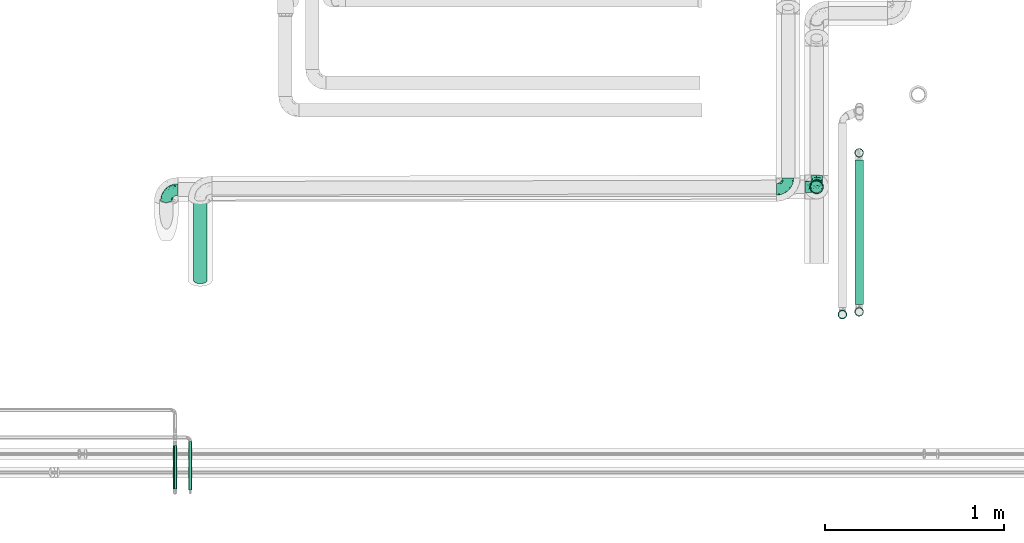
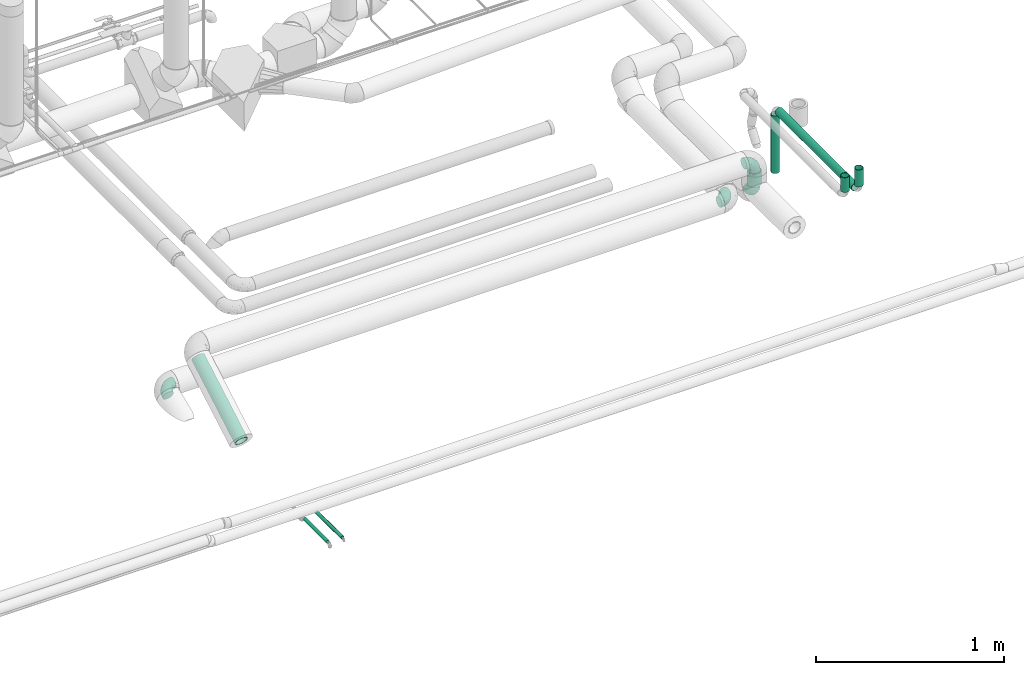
# One storey, part 57 of 156: 8 flow segments, 4 flow fittings.
"""IFC2X3 building model written with IfcOpenShell, lengths in millimetres."""

from ifc_helpers import new_model, entity, si_unit, converted_unit, derived_unit, direction, frame, origin_with_axes, origin_2d_with_axis, place, context, subcontext, project, spatial, hollow_circle, extrude, open_shell, surface_model, source, transform, mapped, type_object, element, save


model = new_model("IFC2X3")

# Units and contexts
model_context = context("Model", 3, precision=0.01, world=frame((0.0, 4.29681676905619e-09, 0.0)), true_north=direction((4.01073788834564e-13, 1.0)))
plan_context = context("Plan", 3, precision=0.01, world=frame((0.0, 4.29681676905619e-09, 0.0)), true_north=direction((4.01073788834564e-13, 1.0)))
body_context = subcontext(model_context, "Body", "Model", "MODEL_VIEW")
ifc_project = project(units=[converted_unit("PLANEANGLEUNIT", "DEGREE", entity("IfcPositiveLengthMeasure", 0.0174532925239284), si_unit("PLANEANGLEUNIT", "RADIAN"), dimensions=[0, 0, 0, 0, 0, 0, 0]), si_unit("AREAUNIT", "SQUARE_METRE"), si_unit("LENGTHUNIT", "METRE", prefix="MILLI"), si_unit("MASSUNIT", "GRAM", prefix="KILO"), si_unit("POWERUNIT", "WATT"), si_unit("PRESSUREUNIT", "PASCAL", prefix="KILO"), si_unit("FORCEUNIT", "NEWTON", prefix="KILO"), si_unit("ELECTRICVOLTAGEUNIT", "VOLT"), si_unit("ELECTRICCURRENTUNIT", "AMPERE"), si_unit("THERMODYNAMICTEMPERATUREUNIT", "DEGREE_CELSIUS"), si_unit("TIMEUNIT", "SECOND"), si_unit("VOLUMEUNIT", "CUBIC_METRE"), derived_unit("LINEARVELOCITYUNIT", [(si_unit("LENGTHUNIT", "METRE"), 1), (si_unit("TIMEUNIT", "SECOND"), -1)]), derived_unit("VOLUMETRICFLOWRATEUNIT", [(si_unit("VOLUMEUNIT", "CUBIC_METRE"), 1), (si_unit("TIMEUNIT", "SECOND"), -1)]), derived_unit("THERMALTRANSMITTANCEUNIT", [(si_unit("POWERUNIT", "WATT"), 1), (si_unit("THERMODYNAMICTEMPERATUREUNIT", "KELVIN"), -1), (si_unit("AREAUNIT", "SQUARE_METRE"), -1)]), derived_unit("SOUNDPRESSUREUNIT", [(si_unit("PRESSUREUNIT", "PASCAL"), 1)])], contexts=[model_context, plan_context])

# Site, building, storey
site_placement = place(None, frame((0.0, -4.29681676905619e-09, 0.0), z_axis=(0.0, 0.0, 1.0), x_axis=(1.0, 0.0, 0.0)))
site = spatial("IfcSite", under=ifc_project, at=site_placement, CompositionType="ELEMENT")
building_placement = place(site_placement, frame((0.0, 4.29681676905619e-09, 0.0), z_axis=(0.0, 0.0, 1.0), x_axis=(1.0, 0.0, 0.0)))
building = spatial("IfcBuilding", under=site, at=building_placement, Name="mc-building", CompositionType="ELEMENT")
storey_placement = place(building_placement, frame((0.0, 0.0, 205200.0), z_axis=(0.0, 0.0, 1.0), x_axis=(1.0, 0.0, 0.0)))
storey = spatial("IfcBuildingStorey", under=building, at=storey_placement, Name="Nivå D + 1,2 m", CompositionType="ELEMENT", Elevation=205200.0)

# Flow fittings
pipe_fitting_type = type_object("IfcPipeFittingType", Name="magi_pipe_elbow_short_001", PredefinedType="BEND")
shared_shape_1 = source(origin_with_axes(), body_context, "Body", "SurfaceModel", [
    surface_model("IfcShellBasedSurfaceModel", [(-65.0, 16.25, -28.14582), (-65.0, 8.41162, -31.39259), (-65.0, 0.0, -32.5), (-65.0, 22.98097, -22.98097), (-65.0, 31.39259, -8.41162), (-65.0, 28.14582, -16.25), (-65.0, -22.98097, -22.98097), (-65.0, -32.5, 0.0), (-65.0, -16.25, -28.14582), (-65.0, -8.41162, -31.39259), (-65.0, -31.39259, -8.41162), (-65.0, -28.14582, -16.25), (-65.0, 28.14582, 16.25), (-65.0, 31.39259, 8.41162), (-65.0, 16.25, 28.14582), (-65.0, -16.25, 28.14582), (-65.0, 22.98097, 22.98097), (-65.0, 8.41162, 31.39259), (-65.0, 0.0, 32.5), (-65.0, -28.14582, 16.25), (-65.0, -22.98097, 22.98097), (-65.0, -31.39259, 8.41162), (-65.0, -8.41162, 31.39259), (-65.0, 32.5, 0.0), (0.0, 65.0, -32.5), (-8.41162, 65.0, -31.39259), (-16.25, 65.0, -28.14582), (-22.98097, 65.0, -22.98097), (-28.14582, 65.0, -16.25), (-31.39259, 65.0, -8.41162), (22.98097, 65.0, -22.98097), (32.5, 65.0, 0.0), (8.41162, 65.0, -31.39259), (16.25, 65.0, -28.14582), (28.14582, 65.0, -16.25), (31.39259, 65.0, -8.41162), (22.98097, 65.0, 22.98097), (-31.39259, 65.0, 8.41162), (-16.25, 65.0, 28.14582), (-28.14582, 65.0, 16.25), (16.25, 65.0, 28.14582), (-22.98097, 65.0, 22.98097), (0.0, 65.0, 32.5), (-8.41162, 65.0, 31.39259), (31.39259, 65.0, 8.41162), (28.14582, 65.0, 16.25), (8.41162, 65.0, 31.39259), (-32.5, 65.0, 0.0), (-43.90702, -28.50357, 10.21429), (-47.66599, -25.24708, 18.24329), (-34.87084, -27.72801, 0.0), (-49.01599, -29.96838, 0.0), (-8.32282, -11.22418, 12.53244), (-2.26208, -8.68175, 6.83487), (1.87734, -1.87734, 13.46633), (-49.6496, -4.30536, 31.94417), (-45.51055, 4.98181, 32.4446), (11.10232, 7.93663, 12.20831), (19.84605, 26.44675, 16.1655), (7.61141, 11.79181, 20.74294), (-32.35679, -0.29166, 31.50073), (-47.54175, -12.2622, 29.22881), (-25.24141, -7.67713, 27.1649), (-41.69066, -18.5666, 24.14336), (-29.11978, -24.90981, 6.68628), (-21.28089, -20.80358, 0.0), (-11.79181, -7.61142, 20.74294), (-5.80543, 5.80543, 26.57151), (-31.76895, 51.87177, 14.12563), (-27.14947, 50.59881, 21.35142), (-12.13166, 56.06035, 30.44206), (-4.45426, 48.61541, 32.42017), (-50.09899, 12.74635, 30.7009), (-8.48341, 21.76765, 31.91167), (-16.14859, 5.96219, 30.34845), (-3.32017, 17.55886, 29.86711), (-56.22928, 19.68144, 26.48178), (-11.29526, 31.96047, 32.44169), (-24.07322, 24.07322, 31.71032), (-19.35215, 14.20223, 32.33259), (-51.38141, 34.61729, 7.14563), (-51.88792, 31.7637, 14.12347), (-40.35305, 40.35305, 12.14877), (-50.80511, 27.09273, 21.32871), (18.5666, 41.69066, 24.14336), (-33.7058, 43.08158, 18.39466), (12.2622, 47.54175, 29.22881), (25.24708, 47.66599, 18.24329), (28.50357, 43.90702, 10.21429), (-7.69094, -13.87916, 0.0), (-15.78148, -17.87706, 8.42054), (4.30536, 49.6496, 31.94417), (-35.71343, 13.92127, 31.91839), (-31.89105, 7.96389, 32.48613), (20.80358, 21.28089, 0.0), (24.90981, 29.11978, 6.68628), (17.87706, 15.78148, 8.42054), (29.96838, 49.01599, 0.0), (-34.55128, 22.0521, 30.06059), (-26.44675, -19.84605, 16.1655), (-23.56236, 42.00642, 27.31532), (-19.85518, 54.49722, 26.61661), (-34.21038, 52.42992, 6.97228), (-40.73172, 42.62744, 5.71978), (14.97296, 26.18012, 22.02699), (7.67713, 25.24141, 27.1649), (-36.85418, 48.75, 0.0), (-30.08671, 34.32049, 26.70528), (-44.75398, 22.06156, 27.36835), (-0.49673, 0.49673, 19.20125), (-18.54586, 33.64303, 31.24245), (-25.89232, 31.46486, 29.57131), (-14.05565, 44.0383, 30.95171), (-34.25835, 36.29564, 23.02122), (-41.74137, 34.9217, 18.12276), (0.29166, 32.35679, 31.50073), (-26.05885, -14.24556, 22.66105), (8.86268, 2.36037, 6.4802), (27.72801, 34.87084, 0.0), (13.87916, 7.69094, 0.0), (-48.75, 36.85418, 0.0), (3.09411, -3.09411, 0.0), (-47.92601, 27.98949, -21.64777), (-51.85818, 31.77338, -14.12745), (-26.55091, -8.20204, -27.26679), (-28.22117, -0.4054, -30.91131), (-13.05808, -0.54385, -26.63038), (-51.44999, 4.10942, -32.39422), (-47.41254, -29.09488, -10.59528), (-40.83541, -24.10132, -17.60314), (-31.01128, -24.37143, -10.90365), (-47.28426, 13.26677, -30.81881), (-35.80381, 7.68292, -32.49298), (-27.98949, 47.926, -21.64777), (-52.61518, 34.1021, -7.1115), (-20.39883, 51.02225, -26.88546), (-13.26677, 47.28425, -30.81881), (-41.3544, 41.3544, -7.75963), (19.41673, 47.01902, -24.53799), (11.21609, 41.15804, -28.90474), (12.81249, 54.88919, -29.57871), (-6.33191, -11.43232, -8.55907), (-6.42402, -8.42757, -14.80991), (3.49643, -2.75853, -8.57549), (-18.96438, 17.57366, -32.48155), (-30.80999, 19.23044, -31.53267), (-51.02225, 20.39883, -26.88546), (-54.71682, -25.87182, -18.8826), (-31.61812, 36.9194, -24.4791), (-30.03666, 30.03666, -28.53614), (-39.72338, 27.45383, -25.81957), (2.83418, -0.59734, -13.92945), (-47.01902, -19.41673, -24.53799), (24.10132, 40.83541, -17.60314), (29.09488, 47.41254, -10.59528), (24.37143, 31.01128, -10.90365), (-54.88919, -12.81249, -29.57871), (4.09785, 47.8829, -31.90577), (-20.54613, -15.81902, -17.72957), (-24.2662, -13.25756, -22.73526), (-11.78149, -8.03072, -20.32007), (-35.46896, -14.83968, -25.51841), (-41.15804, -11.21609, -28.90474), (-47.8829, -4.09785, -31.90577), (-24.35359, 39.98269, -27.53072), (-34.1021, 52.61518, -7.1115), (-4.10942, 51.44999, -32.39422), (-11.47328, 11.47328, -30.68873), (0.4054, 28.22117, -30.91131), (1.36819, 15.2666, -27.10351), (-31.77338, 51.85818, -14.12745), (-39.0335, 39.0335, -16.01919), (25.87182, 54.71682, -18.8826), (18.8348, 26.11149, -17.45424), (10.47668, 12.32102, -18.0266), (13.25756, 24.2662, -22.73526), (6.71713, 27.74562, -28.39194), (-7.68292, 35.80381, -32.49298), (-39.5129, 20.9158, -29.29247), (-19.37897, 31.62685, -31.37546), (-0.30809, 0.30809, -18.83153), (-15.05383, -18.17086, -5.59074), (16.66507, 16.14703, -12.10401), (18.17086, 15.05383, -5.59074), (3.82878, 9.90613, -22.79737), (-16.14703, -16.66507, -12.10401)], [open_shell([[[0, 1, 2]], [[3, 0, 2]], [[4, 5, 3]], [[6, 3, 2]], [[4, 3, 7]], [[8, 6, 9]], [[6, 2, 9]], [[10, 7, 11]], [[6, 11, 7]], [[6, 7, 3]], [[7, 12, 4]], [[4, 12, 13]], [[14, 12, 7]], [[15, 14, 7]], [[16, 12, 14]], [[17, 14, 18]], [[19, 20, 21]], [[21, 20, 7]], [[22, 18, 15]], [[15, 7, 20]], [[14, 15, 18]], [[4, 13, 23]], [[24, 25, 26]], [[24, 26, 27]], [[27, 28, 29]], [[24, 27, 30]], [[31, 27, 29]], [[32, 30, 33]], [[32, 24, 30]], [[34, 31, 35]], [[31, 34, 30]], [[27, 31, 30]], [[29, 36, 31]], [[36, 29, 37]], [[38, 37, 39]], [[40, 37, 38]], [[38, 39, 41]], [[42, 38, 43]], [[44, 36, 45]], [[31, 36, 44]], [[40, 42, 46]], [[40, 36, 37]], [[42, 40, 38]], [[29, 47, 37]], [[48, 49, 19]], [[50, 48, 51]], [[52, 53, 54]], [[21, 48, 19]], [[21, 51, 48]], [[18, 55, 56]], [[19, 49, 20]], [[57, 58, 59]], [[60, 61, 62]], [[63, 15, 20]], [[63, 61, 15]], [[64, 50, 65]], [[62, 66, 67]], [[39, 68, 69]], [[43, 70, 71]], [[17, 72, 14]], [[73, 74, 75]], [[14, 76, 16]], [[22, 55, 18]], [[77, 78, 79]], [[80, 81, 82]], [[12, 83, 81]], [[84, 36, 40]], [[23, 13, 80]], [[13, 12, 81]], [[68, 85, 69]], [[83, 12, 16]], [[18, 56, 17]], [[40, 86, 84]], [[16, 76, 83]], [[87, 58, 88]], [[39, 37, 68]], [[89, 90, 65]], [[42, 91, 46]], [[65, 90, 64]], [[42, 43, 71]], [[92, 93, 79]], [[88, 44, 45]], [[45, 36, 87]], [[87, 88, 45]], [[94, 95, 96]], [[88, 97, 44]], [[98, 72, 92]], [[49, 99, 63]], [[69, 100, 101]], [[82, 102, 103]], [[104, 105, 59]], [[106, 102, 47]], [[98, 107, 108]], [[102, 82, 68]], [[86, 40, 46]], [[69, 41, 39]], [[109, 54, 57]], [[110, 100, 111]], [[15, 61, 22]], [[101, 38, 41]], [[70, 43, 38]], [[112, 77, 71]], [[84, 86, 105]], [[96, 95, 58]], [[100, 69, 113]], [[72, 17, 56]], [[108, 113, 83]], [[81, 114, 82]], [[112, 110, 77]], [[91, 71, 115]], [[62, 61, 63]], [[55, 61, 60]], [[116, 99, 66]], [[74, 62, 67]], [[91, 86, 46]], [[105, 86, 115]], [[75, 105, 115]], [[109, 67, 66]], [[59, 105, 67]], [[48, 64, 99]], [[99, 49, 48]], [[63, 20, 49]], [[36, 84, 87]], [[58, 87, 84]], [[92, 72, 56]], [[76, 72, 108]], [[102, 68, 37]], [[82, 114, 85]], [[98, 111, 107]], [[112, 70, 101]], [[114, 83, 113]], [[82, 103, 80]], [[92, 79, 78]], [[115, 71, 77]], [[74, 79, 60]], [[77, 79, 73]], [[71, 91, 42]], [[86, 91, 115]], [[61, 55, 22]], [[56, 55, 60]], [[57, 54, 117]], [[104, 59, 58]], [[116, 66, 62]], [[52, 99, 90]], [[21, 7, 51]], [[97, 88, 118]], [[97, 31, 44]], [[53, 90, 89]], [[90, 53, 52]], [[94, 96, 119]], [[88, 95, 118]], [[117, 54, 53]], [[92, 56, 93]], [[98, 92, 78]], [[111, 98, 78]], [[72, 98, 108]], [[110, 111, 78]], [[107, 111, 100]], [[47, 102, 37]], [[102, 106, 103]], [[106, 120, 103]], [[103, 120, 80]], [[23, 80, 120]], [[13, 81, 80]], [[56, 60, 93]], [[60, 79, 93]], [[117, 121, 119]], [[121, 117, 53]], [[53, 89, 121]], [[119, 96, 117]], [[117, 96, 57]], [[77, 110, 78]], [[100, 110, 112]], [[83, 114, 81]], [[85, 114, 113]], [[69, 85, 113]], [[82, 85, 68]], [[109, 52, 54]], [[99, 52, 66]], [[69, 101, 41]], [[112, 101, 100]], [[100, 113, 107]], [[108, 107, 113]], [[62, 74, 60]], [[75, 74, 67]], [[105, 75, 67]], [[73, 75, 115]], [[77, 73, 115]], [[74, 73, 79]], [[99, 64, 90]], [[50, 64, 48]], [[118, 95, 94]], [[58, 95, 88]], [[58, 57, 96]], [[109, 57, 59]], [[72, 76, 14]], [[83, 76, 108]], [[101, 70, 38]], [[71, 70, 112]], [[58, 84, 104]], [[105, 104, 84]], [[67, 109, 59]], [[52, 109, 66]], [[62, 63, 116]], [[99, 116, 63]], [[122, 5, 123]], [[124, 125, 126]], [[2, 1, 127]], [[128, 129, 130]], [[127, 131, 132]], [[28, 27, 133]], [[120, 134, 23]], [[135, 26, 136]], [[123, 134, 137]], [[138, 139, 140]], [[122, 3, 5]], [[141, 142, 143]], [[144, 132, 145]], [[131, 0, 146]], [[128, 11, 147]], [[148, 149, 150]], [[128, 51, 10]], [[142, 151, 143]], [[152, 6, 8]], [[153, 154, 155]], [[156, 152, 8]], [[32, 157, 24]], [[158, 159, 160]], [[147, 11, 6]], [[129, 152, 161]], [[156, 8, 9]], [[162, 163, 125]], [[154, 34, 35]], [[120, 106, 137]], [[149, 148, 164]], [[47, 29, 165]], [[163, 9, 2]], [[5, 4, 123]], [[25, 166, 136]], [[167, 168, 169]], [[170, 133, 171]], [[25, 24, 166]], [[33, 30, 138]], [[157, 32, 140]], [[29, 28, 170]], [[30, 34, 172]], [[26, 135, 27]], [[132, 131, 145]], [[32, 33, 140]], [[173, 174, 175]], [[169, 168, 176]], [[25, 136, 26]], [[175, 138, 173]], [[168, 177, 157]], [[163, 162, 156]], [[153, 172, 154]], [[11, 128, 10]], [[154, 97, 118]], [[131, 178, 145]], [[0, 3, 146]], [[175, 139, 138]], [[155, 118, 94]], [[131, 1, 0]], [[146, 178, 131]], [[170, 137, 165]], [[149, 179, 145]], [[171, 133, 148]], [[160, 180, 142]], [[65, 181, 89]], [[170, 165, 29]], [[137, 171, 123]], [[172, 138, 30]], [[138, 153, 173]], [[168, 157, 139]], [[166, 157, 177]], [[176, 175, 169]], [[168, 167, 144]], [[154, 35, 97]], [[155, 182, 173]], [[162, 124, 161]], [[147, 152, 129]], [[127, 163, 2]], [[132, 144, 125]], [[132, 125, 163]], [[125, 167, 126]], [[129, 158, 130]], [[35, 31, 97]], [[143, 182, 183]], [[169, 126, 167]], [[3, 122, 146]], [[178, 150, 149]], [[136, 179, 164]], [[133, 27, 135]], [[123, 4, 134]], [[122, 123, 171]], [[133, 170, 28]], [[137, 170, 171]], [[184, 175, 174]], [[180, 160, 126]], [[126, 169, 184]], [[126, 159, 124]], [[51, 128, 50]], [[51, 7, 10]], [[131, 127, 1]], [[163, 127, 132]], [[157, 166, 24]], [[136, 166, 177]], [[164, 179, 149]], [[144, 167, 125]], [[179, 144, 145]], [[168, 144, 177]], [[136, 177, 179]], [[144, 179, 177]], [[141, 121, 89]], [[89, 181, 141]], [[154, 118, 155]], [[183, 155, 94]], [[143, 183, 119]], [[119, 183, 94]], [[155, 183, 182]], [[181, 130, 185]], [[50, 128, 130]], [[130, 181, 65]], [[50, 130, 65]], [[141, 181, 185]], [[142, 141, 185]], [[143, 121, 141]], [[158, 160, 142]], [[142, 180, 151]], [[158, 142, 185]], [[126, 160, 159]], [[130, 158, 185]], [[129, 159, 158]], [[23, 134, 4]], [[120, 137, 134]], [[137, 106, 165]], [[47, 165, 106]], [[174, 151, 180]], [[182, 143, 151]], [[150, 146, 122]], [[149, 145, 178]], [[146, 150, 178]], [[122, 171, 148]], [[148, 150, 122]], [[164, 133, 135]], [[133, 164, 148]], [[164, 135, 136]], [[138, 140, 33]], [[157, 140, 139]], [[154, 172, 34]], [[138, 172, 153]], [[163, 156, 9]], [[152, 156, 162]], [[152, 147, 6]], [[128, 147, 129]], [[155, 173, 153]], [[174, 173, 182]], [[151, 174, 182]], [[174, 180, 184]], [[126, 184, 180]], [[175, 184, 169]], [[168, 139, 176]], [[175, 176, 139]], [[161, 124, 159]], [[125, 124, 162]], [[129, 161, 159]], [[162, 161, 152]], [[143, 119, 121]]])]),
])
for number, where, z_axis, x_axis, name in (
    (1, (326217.42979, 460512.28647, 4048.81464), (0.0, -0.37460689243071, 0.927183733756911), (-1.0, 0.0, 0.0), "magi_pipe_elbow_short_001"),
    (2, (329697.42979, 460512.28647, 4048.81464), (0.0, -0.00259999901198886, 0.999996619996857), (1.0, 0.0, 0.0), "magi_pipe_elbow_short_001"),
    (3, (329857.42979, 460526.64514, 4015.75618999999), (-1.0, 0.0, 0.0), (0.0, -1.0, 0.0), "magi_pipe_elbow_short_001"),
    (4, (329857.42979, 460526.64514, 4232.60000000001), (0.00219499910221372, -0.999997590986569, 0.0), (0.0, 0.0, 1.0), "magi_pipe_elbow_short_001"),
):
    element("IfcFlowFitting", number, at=place(storey_placement, frame(where, z_axis=z_axis, x_axis=x_axis)), inside=storey, type_object=pipe_fitting_type, Name=name, context=body_context, shape_type="MappedRepresentation", body=[
        mapped(shared_shape_1, transform((0.0, 0.0, 0.0), scale=1.0)),
    ])

# Flow segments
pipe_segment_type = type_object("IfcPipeSegmentType", Name="Stålrør normaltykke", PredefinedType="RIGIDSEGMENT")
shared_shape_2 = source(origin_with_axes(), body_context, "Body", "SweptSolid", [
    extrude(hollow_circle(Radius=10.7, WallThickness=2.0, at=origin_2d_with_axis()), frame((0.0, 0.0, 0.0), z_axis=(1.0, 0.0, 0.0), x_axis=(0.0, 1.0, 0.0)), (0.0, 0.0, 1.0), 271.8),
])
flow_segment_1_placement = place(storey_placement, frame((326351.10559, 459101.67897, 4038.13884), z_axis=(0.0, 0.00648799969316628, 0.999978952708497), x_axis=(0.0, -0.999978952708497, 0.00648799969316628)))
element("IfcFlowSegment", 5, at=flow_segment_1_placement, inside=storey, type_object=pipe_segment_type, Name="Stålrør normaltykke", context=body_context, shape_type="MappedRepresentation", body=[
    mapped(shared_shape_2, transform((0.0, 0.0, 0.0), scale=1.0)),
])
shared_shape_3 = source(origin_with_axes(), body_context, "Body", "SweptSolid", [
    extrude(hollow_circle(Radius=10.7, WallThickness=2.0, at=origin_2d_with_axis()), frame((0.0, 0.0, 0.0), z_axis=(1.0, 0.0, 0.0), x_axis=(0.0, 1.0, 0.0)), (0.0, 0.0, 1.0), 243.5),
])
flow_segment_2_placement = place(storey_placement, frame((326265.45854, 458836.22144, 4038.0), z_axis=(0.0, 0.0, 1.0), x_axis=(0.0, 1.0, 0.0)))
element("IfcFlowSegment", 6, at=flow_segment_2_placement, inside=storey, type_object=pipe_segment_type, Name="Stålrør normaltykke", context=body_context, shape_type="MappedRepresentation", body=[
    mapped(shared_shape_3, transform((0.0, 0.0, 0.0), scale=1.0)),
])
shared_shape_4 = source(origin_with_axes(), body_context, "Body", "SweptSolid", [
    extrude(hollow_circle(Radius=24.1, WallThickness=2.0, at=origin_2d_with_axis()), frame((0.0, 0.0, 0.0), z_axis=(1.0, 0.0, 0.0), x_axis=(0.0, 1.0, 0.0)), (0.0, 0.0, 1.0), 372.9),
])
flow_segment_3_placement = place(storey_placement, frame((330095.2081, 460717.29788, 3961.57445000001), z_axis=(0.0, 1.0, 0.0), x_axis=(0.0, 0.0, 1.0)))
element("IfcFlowSegment", 7, at=flow_segment_3_placement, inside=storey, type_object=pipe_segment_type, Name="Stålrør normaltykke", context=body_context, shape_type="MappedRepresentation", body=[
    mapped(shared_shape_4, transform((0.0, 0.0, 0.0), scale=1.0)),
])
shared_shape_5 = source(origin_with_axes(), body_context, "Body", "SweptSolid", [
    extrude(hollow_circle(Radius=24.1, WallThickness=2.0, at=origin_2d_with_axis()), frame((0.0, 0.0, 0.0), z_axis=(1.0, 0.0, 0.0), x_axis=(0.0, 1.0, 0.0)), (0.0, 0.0, 1.0), 810.0),
])
flow_segment_4_placement = place(storey_placement, frame((330095.2081, 460677.29788, 4374.42444999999), z_axis=(0.0, 0.0, 1.0), x_axis=(0.0, -1.0, 0.0)))
element("IfcFlowSegment", 8, at=flow_segment_4_placement, inside=storey, type_object=pipe_segment_type, Name="Stålrør normaltykke", context=body_context, shape_type="MappedRepresentation", body=[
    mapped(shared_shape_5, transform((0.0, 0.0, 0.0), scale=1.0)),
])
shared_shape_6 = source(origin_with_axes(), body_context, "Body", "SweptSolid", [
    extrude(hollow_circle(Radius=24.1, WallThickness=2.0, at=origin_2d_with_axis()), frame((0.0, 0.0, 0.0), z_axis=(1.0, 0.0, 0.0), x_axis=(0.0, 1.0, 0.0)), (0.0, 0.0, 1.0), 110.2),
])
flow_segment_5_placement = place(storey_placement, frame((330095.2081, 459827.29788, 4414.42444999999), z_axis=(0.0, 1.0, 0.0), x_axis=(0.0, 0.0, 1.0)))
element("IfcFlowSegment", 9, at=flow_segment_5_placement, inside=storey, type_object=pipe_segment_type, Name="Stålrør normaltykke", context=body_context, shape_type="MappedRepresentation", body=[
    mapped(shared_shape_6, transform((0.0, 0.0, 0.0), scale=1.0)),
])
shared_shape_7 = source(origin_with_axes(), body_context, "Body", "SweptSolid", [
    extrude(hollow_circle(Radius=24.1, WallThickness=2.0, at=origin_2d_with_axis()), frame((0.0, 0.0, 0.0), z_axis=(1.0, 0.0, 0.0), x_axis=(0.0, 1.0, 0.0)), (0.0, 0.0, 1.0), 95.2),
])
flow_segment_6_placement = place(storey_placement, frame((330001.54908, 459812.46901, 4421.09904), z_axis=(0.0, -1.0, 0.0), x_axis=(0.0, 0.0, 1.0)))
element("IfcFlowSegment", 10, at=flow_segment_6_placement, inside=storey, type_object=pipe_segment_type, Name="Stålrør normaltykke", context=body_context, shape_type="MappedRepresentation", body=[
    mapped(shared_shape_7, transform((0.0, 0.0, 0.0), scale=1.0)),
])
shared_shape_8 = source(origin_with_axes(), body_context, "Body", "SweptSolid", [
    extrude(hollow_circle(Radius=38.0, WallThickness=2.0, at=origin_2d_with_axis()), frame((0.0, 0.0, 0.0), z_axis=(1.0, 0.0, 0.0), x_axis=(0.0, 1.0, 0.0)), (0.0, 0.0, 1.0), 530.0),
])
flow_segment_7_placement = place(storey_placement, frame((326407.42979, 460003.78674, 3935.10000000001), z_axis=(0.0, -0.500000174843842, 0.866025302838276), x_axis=(0.0, 0.866025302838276, 0.500000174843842)))
element("IfcFlowSegment", 11, at=flow_segment_7_placement, inside=storey, type_object=pipe_segment_type, Name="Stålrør normaltykke", context=body_context, shape_type="MappedRepresentation", body=[
    mapped(shared_shape_8, transform((0.0, 0.0, 0.0), scale=1.0)),
])
shared_shape_9 = source(origin_with_axes(), body_context, "Body", "SweptSolid", [
    extrude(hollow_circle(Radius=38.0, WallThickness=2.0, at=origin_2d_with_axis()), frame((0.0, 0.0, 0.0), z_axis=(1.0, 0.0, 0.0), x_axis=(0.0, 1.0, 0.0)), (0.0, 0.0, 1.0), 86.8),
])
flow_segment_8_placement = place(storey_placement, frame((329857.42979, 460526.64514, 4080.75618999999), z_axis=(-1.0, 0.0, 0.0), x_axis=(0.0, 0.0, 1.0)))
element("IfcFlowSegment", 12, at=flow_segment_8_placement, inside=storey, type_object=pipe_segment_type, Name="Stålrør normaltykke", context=body_context, shape_type="MappedRepresentation", body=[
    mapped(shared_shape_9, transform((0.0, 0.0, 0.0), scale=1.0)),
])

save(model, "model.ifc")
